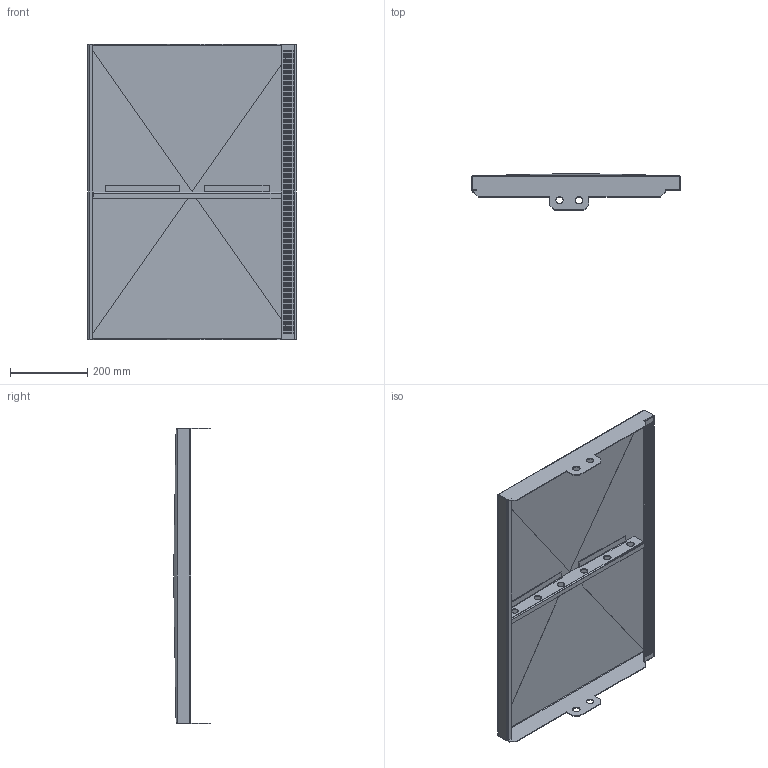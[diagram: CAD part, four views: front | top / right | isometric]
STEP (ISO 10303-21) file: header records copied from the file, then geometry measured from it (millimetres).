
FILE_DESCRIPTION (( 'STEP AP203' ), '1' );
FILE_NAME ('tss3020.STEP', '2011-04-18T20:12:26', ( 'Hoffman User' ), ( 'Hoffman Enclosures' ), 'SwSTEP 2.0', 'SolidWorks 2010', '' );
FILE_SCHEMA (( 'CONFIG_CONTROL_DESIGN' ));
Length unit declared in the file: inch
Products named in the file (4): tss3020; 89064810; 89064809_Cross Brake; 89064823
Assembly tree (3 placements, depth 3):
  tss3020
    89064810
      89064809_Cross Brake
      89064823
Bounding box: 539.75 x 95.25 x 767.35 mm (x, y, z)
Volume: 1180027.5 mm3; surface area: 1184858.9 mm2
Topology: 2 solids, 2 shells, 622 faces, 1775 edges, 1157 vertices
Faces by surface type: plane 568, cylinder 38, bspline 16
Entity records: 21285 total; most frequent: CARTESIAN_POINT 4297, ORIENTED_EDGE 3550, DIRECTION 3003, EDGE_CURVE 1775, LINE 1649, VECTOR 1649, VERTEX_POINT 1157, EDGE_LOOP 874
